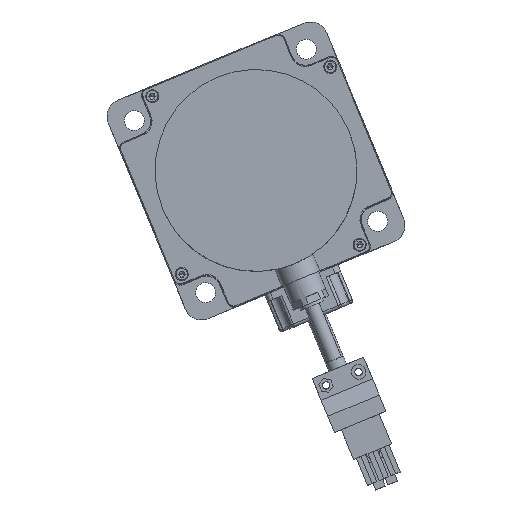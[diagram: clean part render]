
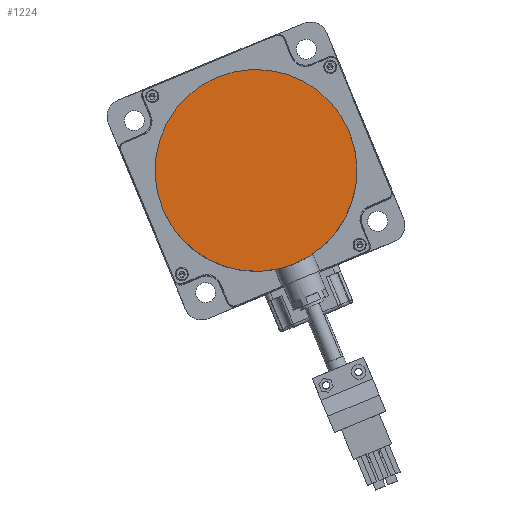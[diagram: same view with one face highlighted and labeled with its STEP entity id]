
A CAD part, top view. The second image highlights one B-rep face of the part: STEP entity #1224.
In plain terms, the highlighted planar face has unit normal (0, 0, 1).
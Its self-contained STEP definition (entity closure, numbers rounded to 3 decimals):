
#653 = AXIS2_PLACEMENT_3D ( 'NONE', #14270, #16258, #19320 ) ;
#662 = ORIENTED_EDGE ( 'NONE', *, *, #2279, .T. ) ;
#710 = CARTESIAN_POINT ( 'NONE',  ( 34.5, 0., 21. ) ) ;
#983 = CIRCLE ( 'NONE', #653, 34.5 ) ;
#1224 = ADVANCED_FACE ( 'NONE', ( #14254 ), #11177, .T. ) ;
#1553 = CARTESIAN_POINT ( 'NONE',  ( 0., 0., 21. ) ) ;
#2245 = DIRECTION ( 'NONE',  ( 1., 0., 0. ) ) ;
#2279 = EDGE_CURVE ( 'NONE', #3059, #10537, #4148, .T. ) ;
#2459 = DIRECTION ( 'NONE',  ( 0., 0., 1. ) ) ;
#3059 = VERTEX_POINT ( 'NONE', #13293 ) ;
#4148 = CIRCLE ( 'NONE', #7459, 34.5 ) ;
#7094 = CARTESIAN_POINT ( 'NONE',  ( 0., 0., 21. ) ) ;
#7459 = AXIS2_PLACEMENT_3D ( 'NONE', #7094, #2459, #2245 ) ;
#8133 = AXIS2_PLACEMENT_3D ( 'NONE', #1553, #14350, #12453 ) ;
#8997 = ORIENTED_EDGE ( 'NONE', *, *, #9868, .T. ) ;
#9868 = EDGE_CURVE ( 'NONE', #10537, #3059, #983, .T. ) ;
#10537 = VERTEX_POINT ( 'NONE', #710 ) ;
#11177 = PLANE ( 'NONE',  #8133 ) ;
#12453 = DIRECTION ( 'NONE',  ( 1., 0., 0. ) ) ;
#13293 = CARTESIAN_POINT ( 'NONE',  ( -34.5, 0., 21. ) ) ;
#14254 = FACE_OUTER_BOUND ( 'NONE', #19024, .T. ) ;
#14270 = CARTESIAN_POINT ( 'NONE',  ( 0., 0., 21. ) ) ;
#14350 = DIRECTION ( 'NONE',  ( 0., 0., 1. ) ) ;
#16258 = DIRECTION ( 'NONE',  ( 0., 0., 1. ) ) ;
#19024 = EDGE_LOOP ( 'NONE', ( #662, #8997 ) ) ;
#19320 = DIRECTION ( 'NONE',  ( 1., 0., 0. ) ) ;
